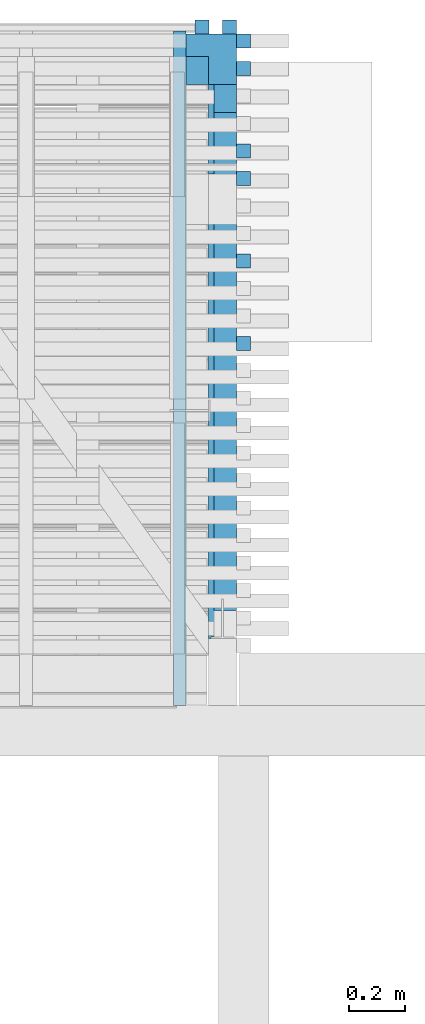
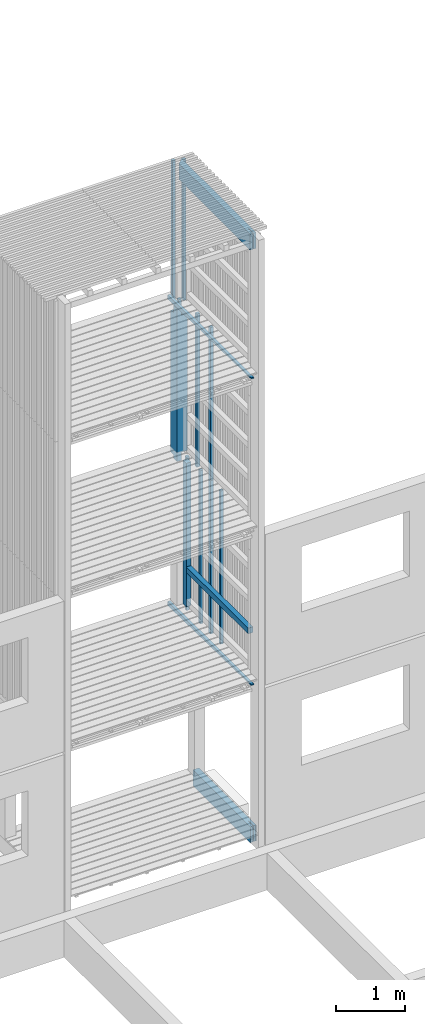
# One storey, part 31 of 182: 16 beams.
"""IFC2X3 building model written with IfcOpenShell, lengths in metres."""

from ifc_helpers import new_model, si_unit, frame, origin, place, context, project, spatial, faceted_brep, element, save


model = new_model("IFC2X3")

# Units and contexts
model_context = context("Model", 3, precision=1e-06, world=origin())
ifc_project = project(units=[si_unit("LENGTHUNIT", "METRE"), si_unit("PLANEANGLEUNIT", "RADIAN")], contexts=[model_context])

# Site, building, storey
site = spatial("IfcSite", under=ifc_project, CompositionType="ELEMENT")
building = spatial("IfcBuilding", under=site, CompositionType="ELEMENT")
storey = spatial("IfcBuildingStorey", under=building, Name="vs", CompositionType="ELEMENT", Elevation=-0.85)

# Beams
placement = place(None, origin())
beam_1_placement = place(placement, frame((6.66919731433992, 12.746895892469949, 2.575000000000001), z_axis=(-1.0, 0.0, 0.0), x_axis=(0.0, 0.0, 1.0)))
element("IfcBeam", 1, at=beam_1_placement, inside=storey, Name="Bardage", context=model_context, shape_type="Brep", body=[
    faceted_brep([(0.0, -0.025000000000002, 0.024999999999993), (0.0, 0.024999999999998, 0.024999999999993), (0.0, 0.024999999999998, -0.025000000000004), (0.0, -0.025000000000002, -0.025000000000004), (2.699961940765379, 0.025000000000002, -0.025000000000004), (2.699961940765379, 0.025000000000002, 0.024999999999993), (2.699961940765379, -0.025000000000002, 0.024999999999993), (2.699961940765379, -0.025000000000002, -0.025000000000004), (0.0, -0.025000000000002, -0.025000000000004), (0.0, 0.024999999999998, -0.025000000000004), (2.699961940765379, 0.025000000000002, -0.025000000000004), (2.699961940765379, -0.025000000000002, -0.025000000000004), (2.699961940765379, 0.025000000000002, -0.025000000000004), (0.0, 0.024999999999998, -0.025000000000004), (0.0, 0.024999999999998, 0.024999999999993), (2.699961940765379, 0.025000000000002, 0.024999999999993), (2.699961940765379, 0.025000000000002, 0.024999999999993), (0.0, 0.024999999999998, 0.024999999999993), (0.0, -0.025000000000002, 0.024999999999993), (2.699961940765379, -0.025000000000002, 0.024999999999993), (2.699961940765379, -0.025000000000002, 0.024999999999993), (0.0, -0.025000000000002, 0.024999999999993), (0.0, -0.025000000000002, -0.025000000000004), (2.699961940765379, -0.025000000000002, -0.025000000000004)], [[[0, 1, 2, 3]], [[4, 5, 6, 7]], [[8, 9, 10, 11]], [[12, 13, 14, 15]], [[16, 17, 18, 19]], [[20, 21, 22, 23]]]),
])
beam_2_placement = place(placement, frame((6.554197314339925, 12.780077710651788, 5.279999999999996), z_axis=(0.0, -1.0, 0.0), x_axis=(0.0, 0.0, 1.0)))
element("IfcBeam", 2, at=beam_2_placement, inside=storey, Name="Poteau", context=model_context, shape_type="Brep", body=[
    faceted_brep([(0.139999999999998, -0.09, 0.089999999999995), (0.139999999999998, 0.009999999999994, 0.089999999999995), (0.139999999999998, 0.009999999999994, -0.090000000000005), (0.139999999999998, -0.09, -0.090000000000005), (0.059999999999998, 0.090000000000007, -0.010000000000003), (0.059999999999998, 0.009999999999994, -0.009999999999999), (-1e-15, 0.009999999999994, -0.009999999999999), (-1e-15, 0.090000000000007, -0.009999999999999), (-1e-15, 0.090000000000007, 0.089999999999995), (-1e-15, 0.090000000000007, -0.009999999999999), (-1e-15, 0.009999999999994, -0.009999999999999), (-1e-15, 0.009999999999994, 0.089999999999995), (0.139999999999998, 0.009999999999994, -0.090000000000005), (0.139999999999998, 0.009999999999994, 0.089999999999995), (-1e-15, 0.009999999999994, 0.089999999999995), (-1e-15, 0.009999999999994, -0.009999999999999), (0.059999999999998, 0.009999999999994, -0.009999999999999), (0.059999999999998, 0.009999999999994, -0.090000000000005), (0.059999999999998, 0.009999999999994, -0.090000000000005), (0.059999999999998, 0.009999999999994, -0.009999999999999), (0.059999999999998, 0.090000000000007, -0.010000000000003), (0.059999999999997, 0.090000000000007, -0.090000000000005), (0.139999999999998, -0.09, -0.090000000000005), (0.139999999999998, 0.009999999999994, -0.090000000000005), (0.059999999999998, 0.009999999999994, -0.090000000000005), (0.059999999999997, 0.090000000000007, -0.090000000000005), (2.559999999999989, 0.090000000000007, -0.090000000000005), (2.559999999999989, -0.09, -0.090000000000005), (2.559999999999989, -0.09, 0.089999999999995), (0.139999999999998, -0.09, 0.089999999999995), (0.139999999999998, -0.09, -0.090000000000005), (2.559999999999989, -0.09, -0.090000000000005), (2.559999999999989, 0.090000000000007, -0.010000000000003), (2.559999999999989, 0.090000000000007, -0.090000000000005), (0.059999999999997, 0.090000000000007, -0.090000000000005), (0.059999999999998, 0.090000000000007, -0.010000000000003), (-1e-15, 0.090000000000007, -0.009999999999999), (-1e-15, 0.090000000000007, 0.089999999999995), (2.69999999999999, 0.090000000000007, 0.089999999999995), (2.69999999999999, 0.090000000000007, -0.009999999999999), (2.69999999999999, 0.009999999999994, 0.089999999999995), (2.69999999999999, 0.090000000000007, 0.089999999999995), (-1e-15, 0.090000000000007, 0.089999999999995), (-1e-15, 0.009999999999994, 0.089999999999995), (0.139999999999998, 0.009999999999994, 0.089999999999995), (0.139999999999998, -0.09, 0.089999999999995), (2.559999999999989, -0.09, 0.089999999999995), (2.559999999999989, 0.009999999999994, 0.089999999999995), (2.559999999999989, 0.090000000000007, -0.010000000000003), (2.69999999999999, 0.090000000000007, -0.009999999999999), (2.69999999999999, 0.009999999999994, -0.010000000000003), (2.559999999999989, 0.009999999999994, -0.010000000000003), (2.559999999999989, 0.009999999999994, 0.089999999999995), (2.559999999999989, -0.09, 0.089999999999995), (2.559999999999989, -0.09, -0.090000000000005), (2.559999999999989, 0.090000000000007, -0.090000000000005), (2.559999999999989, 0.090000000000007, -0.010000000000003), (2.559999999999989, 0.009999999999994, -0.010000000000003), (2.69999999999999, 0.009999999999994, 0.089999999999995), (2.559999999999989, 0.009999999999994, 0.089999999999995), (2.559999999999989, 0.009999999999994, -0.010000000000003), (2.69999999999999, 0.009999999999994, -0.010000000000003), (2.69999999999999, 0.090000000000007, 0.089999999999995), (2.69999999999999, 0.009999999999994, 0.089999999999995), (2.69999999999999, 0.009999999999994, -0.010000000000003), (2.69999999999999, 0.090000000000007, -0.009999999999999)], [[[0, 1, 2, 3]], [[4, 5, 6, 7]], [[8, 9, 10, 11]], [[12, 13, 14, 15, 16, 17]], [[18, 19, 20, 21]], [[22, 23, 24, 25, 26, 27]], [[28, 29, 30, 31]], [[32, 33, 34, 35, 36, 37, 38, 39]], [[40, 41, 42, 43, 44, 45, 46, 47]], [[48, 49, 50, 51]], [[52, 53, 54, 55, 56, 57]], [[58, 59, 60, 61]], [[62, 63, 64, 65]]]),
])
beam_3_placement = place(placement, frame((6.604197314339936, 12.640077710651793, 2.746999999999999), z_axis=(0.0, -1.0, 0.0), x_axis=(0.0, 0.0, 1.0)))
element("IfcBeam", 3, at=beam_3_placement, inside=storey, Name="Support bardage", context=model_context, shape_type="Brep", body=[
    faceted_brep([(2.527961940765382, -0.039999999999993, -0.05), (2.527961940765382, 0.04000000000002, -0.05), (2.527961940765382, 0.04000000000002, 0.050000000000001), (2.527961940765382, -0.039999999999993, 0.050000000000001), (0.0, -0.039999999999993, 0.050000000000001), (0.0, -0.039999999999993, -0.05), (2.527961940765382, -0.039999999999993, -0.05), (2.527961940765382, -0.039999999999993, 0.050000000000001), (0.0, -0.039999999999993, -0.05), (0.0, -0.039999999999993, 0.050000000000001), (0.0, 0.04000000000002, 0.050000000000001), (0.0, 0.04000000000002, -0.05), (2.527961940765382, -0.039999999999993, -0.05), (0.0, -0.039999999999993, -0.05), (0.0, 0.04000000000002, -0.05), (2.527961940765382, 0.04000000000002, -0.05), (2.527961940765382, 0.04000000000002, -0.05), (0.0, 0.04000000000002, -0.05), (0.0, 0.04000000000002, 0.050000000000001), (2.527961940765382, 0.04000000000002, 0.050000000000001), (2.527961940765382, 0.04000000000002, 0.050000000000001), (0.0, 0.04000000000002, 0.050000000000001), (0.0, -0.039999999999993, 0.050000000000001), (2.527961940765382, -0.039999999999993, 0.050000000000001)], [[[0, 1, 2, 3]], [[4, 5, 6, 7]], [[8, 9, 10, 11]], [[12, 13, 14, 15]], [[16, 17, 18, 19]], [[20, 21, 22, 23]]]),
])
beam_4_placement = place(placement, frame((6.619197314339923, 12.895077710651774, 5.274999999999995), z_axis=(0.0, -1.0, 0.0), x_axis=(0.0, 0.0, 1.0)))
element("IfcBeam", 4, at=beam_4_placement, inside=storey, Name="Bardage", context=model_context, shape_type="Brep", body=[
    faceted_brep([(2.699999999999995, 0.025000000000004, 0.025000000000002), (2.699999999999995, -0.025000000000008, 0.025000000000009), (2.699999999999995, -0.025000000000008, -0.024999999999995), (2.699999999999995, 0.02499999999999, -0.025000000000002), (1e-15, 0.025000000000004, 0.025000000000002), (2.699999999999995, 0.025000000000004, 0.025000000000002), (2.699999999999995, 0.02499999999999, -0.025000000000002), (1e-15, 0.02499999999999, -0.025000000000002), (1e-15, -0.025000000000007, 0.025000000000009), (1e-15, 0.025000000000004, 0.025000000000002), (1e-15, 0.02499999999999, -0.025000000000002), (1e-15, -0.025000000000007, -0.024999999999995), (1e-15, 0.025000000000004, 0.025000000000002), (1e-15, -0.025000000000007, 0.025000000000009), (2.699999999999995, -0.025000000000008, 0.025000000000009), (2.699999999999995, 0.025000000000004, 0.025000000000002), (1e-15, -0.025000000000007, 0.025000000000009), (1e-15, -0.025000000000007, -0.024999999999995), (2.699999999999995, -0.025000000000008, -0.024999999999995), (2.699999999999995, -0.025000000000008, 0.025000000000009), (1e-15, -0.025000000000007, -0.024999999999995), (1e-15, 0.02499999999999, -0.025000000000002), (2.699999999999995, 0.02499999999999, -0.025000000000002), (2.699999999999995, -0.025000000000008, -0.024999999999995)], [[[0, 1, 2, 3]], [[4, 5, 6, 7]], [[8, 9, 10, 11]], [[12, 13, 14, 15]], [[16, 17, 18, 19]], [[20, 21, 22, 23]]]),
])
beam_5_placement = place(placement, frame((6.66919731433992, 12.84507771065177, 7.974999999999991), z_axis=(-1.0, 0.0, 0.0), x_axis=(0.0, 0.0, 1.0)))
element("IfcBeam", 5, at=beam_5_placement, inside=storey, Name="Bardage", context=model_context, shape_type="Brep", body=[
    faceted_brep([(2.479999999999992, -0.025000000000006, 0.024999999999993), (2.479999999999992, -0.025000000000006, -0.025000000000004), (2.479999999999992, 0.024999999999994, -0.025000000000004), (2.479999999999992, 0.024999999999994, 0.024999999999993), (0.0, 0.024999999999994, 0.024999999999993), (0.0, -0.025000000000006, 0.024999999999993), (2.479999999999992, -0.025000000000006, 0.024999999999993), (2.479999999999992, 0.024999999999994, 0.024999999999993), (0.0, -0.025000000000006, 0.024999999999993), (0.0, 0.024999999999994, 0.024999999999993), (0.0, 0.024999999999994, -0.025000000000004), (0.0, -0.025000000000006, -0.025000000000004), (0.0, 0.024999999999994, -0.025000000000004), (0.0, 0.024999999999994, 0.024999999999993), (2.479999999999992, 0.024999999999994, 0.024999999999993), (2.479999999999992, 0.024999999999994, -0.025000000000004), (0.0, -0.025000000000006, -0.025000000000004), (0.0, 0.024999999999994, -0.025000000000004), (2.479999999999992, 0.024999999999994, -0.025000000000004), (2.479999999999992, -0.025000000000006, -0.025000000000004), (2.479999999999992, -0.025000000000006, 0.024999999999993), (0.0, -0.025000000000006, 0.024999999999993), (0.0, -0.025000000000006, -0.025000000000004), (2.479999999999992, -0.025000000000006, -0.025000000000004)], [[[0, 1, 2, 3]], [[4, 5, 6, 7]], [[8, 9, 10, 11]], [[12, 13, 14, 15]], [[16, 17, 18, 19]], [[20, 21, 22, 23]]]),
])
beam_6_placement = place(placement, frame((6.521015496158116, 12.895077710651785, 7.974999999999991), z_axis=(0.0, -1.0, 0.0), x_axis=(0.0, 0.0, 1.0)))
element("IfcBeam", 6, at=beam_6_placement, inside=storey, Name="Bardage", context=model_context, shape_type="Brep", body=[
    faceted_brep([(0.0, -0.024999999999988, 0.025000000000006), (0.0, 0.025000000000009, 0.024999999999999), (0.0, 0.024999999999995, -0.025000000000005), (0.0, -0.025000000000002, -0.024999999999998), (2.479999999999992, 0.024999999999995, -0.025000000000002), (2.479999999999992, 0.025000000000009, 0.024999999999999), (2.479999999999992, -0.024999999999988, 0.025000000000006), (2.479999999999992, -0.025000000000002, -0.024999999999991), (0.0, 0.025000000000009, 0.024999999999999), (0.0, -0.024999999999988, 0.025000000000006), (2.479999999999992, -0.024999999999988, 0.025000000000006), (2.479999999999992, 0.025000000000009, 0.024999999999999), (0.0, 0.024999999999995, -0.025000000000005), (0.0, 0.025000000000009, 0.024999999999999), (2.479999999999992, 0.025000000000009, 0.024999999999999), (2.479999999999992, 0.024999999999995, -0.025000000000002), (0.0, -0.025000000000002, -0.024999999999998), (0.0, 0.024999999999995, -0.025000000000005), (2.479999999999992, 0.024999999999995, -0.025000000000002), (2.479999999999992, -0.025000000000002, -0.024999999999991), (2.479999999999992, -0.024999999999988, 0.025000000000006), (0.0, -0.024999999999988, 0.025000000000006), (0.0, -0.025000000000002, -0.024999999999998), (2.479999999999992, -0.025000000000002, -0.024999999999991)], [[[0, 1, 2, 3]], [[4, 5, 6, 7]], [[8, 9, 10, 11]], [[12, 13, 14, 15]], [[16, 17, 18, 19]], [[20, 21, 22, 23]]]),
])
beam_7_placement = place(placement, frame((6.594197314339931, 10.715077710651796, 10.314999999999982), z_axis=(0.0, 0.0, 1.0), x_axis=(0.0, 1.0, 0.0)))
element("IfcBeam", 7, at=beam_7_placement, inside=storey, Name="Sommier", context=model_context, shape_type="Brep", body=[
    faceted_brep([(2.054999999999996, 0.049999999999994, 0.140000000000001), (2.054999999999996, 0.049999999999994, -0.140000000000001), (0.0, 0.049999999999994, -0.140000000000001), (0.0, 0.049999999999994, 0.140000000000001), (2.054999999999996, 0.049999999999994, -0.140000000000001), (2.054999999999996, 0.049999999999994, 0.140000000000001), (2.154999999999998, -0.05, 0.140000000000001), (2.154999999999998, -0.05, -0.140000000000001), (-4e-15, -0.003999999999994, 0.140000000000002), (0.0, -0.05, 0.140000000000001), (2.154999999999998, -0.05, 0.140000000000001), (2.054999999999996, 0.049999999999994, 0.140000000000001), (0.0, 0.049999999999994, 0.140000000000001), (-4e-15, 0.004000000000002, 0.140000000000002), (0.136999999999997, 0.004000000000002, 0.140000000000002), (0.136999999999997, -0.003999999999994, 0.140000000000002), (2.154999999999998, -0.05, -0.140000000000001), (2.154999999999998, -0.05, 0.140000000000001), (0.0, -0.05, 0.140000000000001), (0.0, -0.05, -0.140000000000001), (0.0, 0.004000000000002, -0.139999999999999), (-4e-15, 0.004000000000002, 0.140000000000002), (0.0, 0.049999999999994, 0.140000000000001), (0.0, 0.049999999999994, -0.140000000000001), (0.0, -0.05, 0.140000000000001), (-4e-15, -0.003999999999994, 0.140000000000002), (0.0, -0.003999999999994, -0.139999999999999), (0.0, -0.05, -0.140000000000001), (0.0, 0.049999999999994, -0.140000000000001), (2.054999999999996, 0.049999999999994, -0.140000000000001), (2.154999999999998, -0.05, -0.140000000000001), (0.0, -0.05, -0.140000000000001), (0.0, -0.003999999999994, -0.139999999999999), (0.136999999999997, -0.003999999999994, -0.139999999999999), (0.136999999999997, 0.004000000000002, -0.139999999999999), (0.0, 0.004000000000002, -0.139999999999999), (0.136999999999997, 0.004000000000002, -0.139999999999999), (0.136999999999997, -0.003999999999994, -0.139999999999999), (0.136999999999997, -0.003999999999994, 0.140000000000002), (0.136999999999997, 0.004000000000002, 0.140000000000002), (-4e-15, -0.003999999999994, 0.140000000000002), (0.136999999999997, -0.003999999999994, 0.140000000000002), (0.136999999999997, -0.003999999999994, -0.139999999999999), (0.0, -0.003999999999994, -0.139999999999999), (0.136999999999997, 0.004000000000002, 0.140000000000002), (-4e-15, 0.004000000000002, 0.140000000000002), (0.0, 0.004000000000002, -0.139999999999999), (0.136999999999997, 0.004000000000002, -0.139999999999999)], [[[0, 1, 2, 3]], [[4, 5, 6, 7]], [[8, 9, 10, 11, 12, 13, 14, 15]], [[16, 17, 18, 19]], [[20, 21, 22, 23]], [[24, 25, 26, 27]], [[28, 29, 30, 31, 32, 33, 34, 35]], [[36, 37, 38, 39]], [[40, 41, 42, 43]], [[44, 45, 46, 47]]]),
])
beam_8_placement = place(placement, frame((6.66919731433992, 12.35416861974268, 2.575000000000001), z_axis=(-1.0, 0.0, 0.0), x_axis=(0.0, 0.0, 1.0)))
element("IfcBeam", 8, at=beam_8_placement, inside=storey, Name="Bardage", context=model_context, shape_type="Brep", body=[
    faceted_brep([(0.0, -0.024999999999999, 0.024999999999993), (0.0, 0.024999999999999, 0.024999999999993), (0.0, 0.024999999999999, -0.025000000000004), (0.0, -0.024999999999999, -0.025000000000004), (2.699961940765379, 0.024999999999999, -0.025000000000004), (2.699961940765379, 0.024999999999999, 0.024999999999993), (2.699961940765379, -0.024999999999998, 0.024999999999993), (2.699961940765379, -0.024999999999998, -0.025000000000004), (0.0, -0.024999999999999, -0.025000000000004), (0.0, 0.024999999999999, -0.025000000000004), (2.699961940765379, 0.024999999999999, -0.025000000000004), (2.699961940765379, -0.024999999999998, -0.025000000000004), (2.699961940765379, 0.024999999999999, -0.025000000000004), (0.0, 0.024999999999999, -0.025000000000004), (0.0, 0.024999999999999, 0.024999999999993), (2.699961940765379, 0.024999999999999, 0.024999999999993), (2.699961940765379, 0.024999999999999, 0.024999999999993), (0.0, 0.024999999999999, 0.024999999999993), (0.0, -0.024999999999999, 0.024999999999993), (2.699961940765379, -0.024999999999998, 0.024999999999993), (2.699961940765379, -0.024999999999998, 0.024999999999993), (0.0, -0.024999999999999, 0.024999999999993), (0.0, -0.024999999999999, -0.025000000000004), (2.699961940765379, -0.024999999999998, -0.025000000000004)], [[[0, 1, 2, 3]], [[4, 5, 6, 7]], [[8, 9, 10, 11]], [[12, 13, 14, 15]], [[16, 17, 18, 19]], [[20, 21, 22, 23]]]),
])
beam_9_placement = place(placement, frame((6.66919731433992, 12.059623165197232, 5.274999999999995), z_axis=(-1.0, 0.0, 0.0), x_axis=(0.0, 0.0, 1.0)))
element("IfcBeam", 9, at=beam_9_placement, inside=storey, Name="Bardage", context=model_context, shape_type="Brep", body=[
    faceted_brep([(1e-15, -0.025000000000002, 0.024999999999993), (1e-15, 0.024999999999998, 0.024999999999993), (1e-15, 0.024999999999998, -0.025000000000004), (1e-15, -0.025000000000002, -0.025000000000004), (2.699999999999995, -0.025000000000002, -0.025000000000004), (2.699999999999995, 0.024999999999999, -0.025000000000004), (2.699999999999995, 0.024999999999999, 0.024999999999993), (2.699999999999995, -0.025000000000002, 0.024999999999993), (1e-15, -0.025000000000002, 0.024999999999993), (1e-15, -0.025000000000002, -0.025000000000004), (2.699999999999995, -0.025000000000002, -0.025000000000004), (2.699999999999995, -0.025000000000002, 0.024999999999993), (2.699999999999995, -0.025000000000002, -0.025000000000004), (1e-15, -0.025000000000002, -0.025000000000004), (1e-15, 0.024999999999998, -0.025000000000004), (2.699999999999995, 0.024999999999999, -0.025000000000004), (2.699999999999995, 0.024999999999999, -0.025000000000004), (1e-15, 0.024999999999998, -0.025000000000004), (1e-15, 0.024999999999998, 0.024999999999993), (2.699999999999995, 0.024999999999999, 0.024999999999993), (2.699999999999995, 0.024999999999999, 0.024999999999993), (1e-15, 0.024999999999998, 0.024999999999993), (1e-15, -0.025000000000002, 0.024999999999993), (2.699999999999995, -0.025000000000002, 0.024999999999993)], [[[0, 1, 2, 3]], [[4, 5, 6, 7]], [[8, 9, 10, 11]], [[12, 13, 14, 15]], [[16, 17, 18, 19]], [[20, 21, 22, 23]]]),
])
beam_10_placement = place(placement, frame((6.66919731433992, 11.765077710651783, 2.575000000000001), z_axis=(-1.0, 0.0, 0.0), x_axis=(0.0, 0.0, 1.0)))
element("IfcBeam", 10, at=beam_10_placement, inside=storey, Name="Bardage", context=model_context, shape_type="Brep", body=[
    faceted_brep([(0.0, -0.025000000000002, 0.024999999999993), (0.0, 0.024999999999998, 0.024999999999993), (0.0, 0.024999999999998, -0.025000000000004), (0.0, -0.025000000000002, -0.025000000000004), (2.699961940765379, 0.024999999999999, -0.025000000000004), (2.699961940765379, 0.024999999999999, 0.024999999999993), (2.699961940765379, -0.025000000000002, 0.024999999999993), (2.699961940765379, -0.025000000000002, -0.025000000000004), (0.0, -0.025000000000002, -0.025000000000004), (0.0, 0.024999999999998, -0.025000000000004), (2.699961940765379, 0.024999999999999, -0.025000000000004), (2.699961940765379, -0.025000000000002, -0.025000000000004), (2.699961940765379, 0.024999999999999, -0.025000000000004), (0.0, 0.024999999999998, -0.025000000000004), (0.0, 0.024999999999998, 0.024999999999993), (2.699961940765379, 0.024999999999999, 0.024999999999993), (2.699961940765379, 0.024999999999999, 0.024999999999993), (0.0, 0.024999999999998, 0.024999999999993), (0.0, -0.025000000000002, 0.024999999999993), (2.699961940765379, -0.025000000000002, 0.024999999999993), (2.699961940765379, -0.025000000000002, 0.024999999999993), (0.0, -0.025000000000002, 0.024999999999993), (0.0, -0.025000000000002, -0.025000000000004), (2.699961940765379, -0.025000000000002, -0.025000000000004)], [[[0, 1, 2, 3]], [[4, 5, 6, 7]], [[8, 9, 10, 11]], [[12, 13, 14, 15]], [[16, 17, 18, 19]], [[20, 21, 22, 23]]]),
])
beam_11_placement = place(placement, frame((6.59419731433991, 10.710077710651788, -0.119999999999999), z_axis=(0.0, 0.0, 1.0), x_axis=(0.0, 1.0, 0.0)))
element("IfcBeam", 11, at=beam_11_placement, inside=storey, Name="Sommier", context=model_context, shape_type="Brep", body=[
    faceted_brep([(1.660000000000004, 0.049999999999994, 0.14), (1.660000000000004, -0.050000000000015, 0.14), (1.660000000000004, -0.050000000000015, -0.14), (1.660000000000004, 0.049999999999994, -0.14), (0.142000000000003, -0.004000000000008, -0.14), (0.142000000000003, 0.003999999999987, -0.14), (0.005000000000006, 0.003999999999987, -0.14), (0.005000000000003, 0.040999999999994, -0.14), (4e-15, 0.040999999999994, -0.14), (0.0, 0.049999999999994, -0.14), (1.660000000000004, 0.049999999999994, -0.14), (1.660000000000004, -0.050000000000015, -0.14), (0.0, -0.050000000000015, -0.14), (4e-15, -0.041000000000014, -0.14), (0.005000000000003, -0.041000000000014, -0.14), (0.005000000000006, -0.004000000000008, -0.14), (1.660000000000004, 0.049999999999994, 0.14), (1.660000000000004, 0.049999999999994, -0.14), (0.0, 0.049999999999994, -0.14), (0.0, 0.049999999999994, 0.14), (0.852999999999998, 0.049999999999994, -0.123600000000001), (0.852999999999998, 0.049999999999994, 0.051399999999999), (0.776999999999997, 0.049999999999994, 0.051399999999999), (0.776999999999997, 0.049999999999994, -0.123600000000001), (0.0, -0.050000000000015, 0.14), (4e-15, -0.041000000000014, 0.14), (4e-15, -0.041000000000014, -0.14), (0.0, -0.050000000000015, -0.14), (0.852999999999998, 0.044999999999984, -0.123600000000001), (0.776999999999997, 0.044999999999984, -0.123600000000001), (0.776999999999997, 0.044999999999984, 0.051399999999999), (0.852999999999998, 0.044999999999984, 0.051399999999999), (0.852999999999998, 0.044999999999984, 0.051399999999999), (0.776999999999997, 0.044999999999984, 0.051399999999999), (0.776999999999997, 0.049999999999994, 0.051399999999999), (0.852999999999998, 0.049999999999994, 0.051399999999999), (0.776999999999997, 0.044999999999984, -0.123600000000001), (0.852999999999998, 0.044999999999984, -0.123600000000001), (0.852999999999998, 0.049999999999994, -0.123600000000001), (0.776999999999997, 0.049999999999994, -0.123600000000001), (0.852999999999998, 0.049999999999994, 0.051399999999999), (0.852999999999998, 0.049999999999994, -0.123600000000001), (0.852999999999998, 0.044999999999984, -0.123600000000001), (0.852999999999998, 0.044999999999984, 0.051399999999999), (0.776999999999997, 0.044999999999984, 0.051399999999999), (0.776999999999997, 0.044999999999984, -0.123600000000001), (0.776999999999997, 0.049999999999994, -0.123600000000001), (0.776999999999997, 0.049999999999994, 0.051399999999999), (0.0, -0.050000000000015, -0.14), (1.660000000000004, -0.050000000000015, -0.14), (1.660000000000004, -0.050000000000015, 0.14), (0.0, -0.050000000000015, 0.14), (0.0, 0.049999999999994, 0.14), (0.0, 0.049999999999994, -0.14), (4e-15, 0.040999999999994, -0.14), (4e-15, 0.040999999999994, 0.14), (0.0, -0.050000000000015, 0.14), (1.660000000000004, -0.050000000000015, 0.14), (1.660000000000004, 0.049999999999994, 0.14), (0.0, 0.049999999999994, 0.14), (4e-15, 0.040999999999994, 0.14), (0.005000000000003, 0.040999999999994, 0.14), (0.005000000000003, 0.003999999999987, 0.14), (0.142000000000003, 0.003999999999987, 0.140000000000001), (0.142000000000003, -0.004000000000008, 0.140000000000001), (0.005000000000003, -0.004000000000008, 0.14), (0.005000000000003, -0.041000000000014, 0.14), (4e-15, -0.041000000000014, 0.14), (0.142000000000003, 0.003999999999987, -0.14), (0.142000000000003, -0.004000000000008, -0.14), (0.142000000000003, -0.004000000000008, 0.140000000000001), (0.142000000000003, 0.003999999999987, 0.140000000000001), (0.005000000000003, -0.004000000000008, 0.14), (0.142000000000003, -0.004000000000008, 0.140000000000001), (0.142000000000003, -0.004000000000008, -0.14), (0.005000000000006, -0.004000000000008, -0.14), (0.005000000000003, -0.004000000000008, 0.14), (0.005000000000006, -0.004000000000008, -0.14), (0.005000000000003, -0.041000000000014, -0.14), (0.005000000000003, -0.041000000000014, 0.14), (0.005000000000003, -0.041000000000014, 0.14), (0.005000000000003, -0.041000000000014, -0.14), (4e-15, -0.041000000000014, -0.14), (4e-15, -0.041000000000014, 0.14), (4e-15, 0.040999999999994, 0.14), (4e-15, 0.040999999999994, -0.14), (0.005000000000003, 0.040999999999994, -0.14), (0.005000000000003, 0.040999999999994, 0.14), (0.005000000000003, 0.040999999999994, 0.14), (0.005000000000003, 0.040999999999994, -0.14), (0.005000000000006, 0.003999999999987, -0.14), (0.005000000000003, 0.003999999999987, 0.14), (0.142000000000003, 0.003999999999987, 0.140000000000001), (0.005000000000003, 0.003999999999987, 0.14), (0.005000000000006, 0.003999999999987, -0.14), (0.142000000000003, 0.003999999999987, -0.14)], [[[0, 1, 2, 3]], [[4, 5, 6, 7, 8, 9, 10, 11, 12, 13, 14, 15]], [[16, 17, 18, 19], [20, 21, 22, 23]], [[24, 25, 26, 27]], [[28, 29, 30, 31]], [[32, 33, 34, 35]], [[36, 37, 38, 39]], [[40, 41, 42, 43]], [[44, 45, 46, 47]], [[48, 49, 50, 51]], [[52, 53, 54, 55]], [[56, 57, 58, 59, 60, 61, 62, 63, 64, 65, 66, 67]], [[68, 69, 70, 71]], [[72, 73, 74, 75]], [[76, 77, 78, 79]], [[80, 81, 82, 83]], [[84, 85, 86, 87]], [[88, 89, 90, 91]], [[92, 93, 94, 95]]]),
])
beam_12_placement = place(placement, frame((6.66919731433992, 12.452350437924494, 5.274999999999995), z_axis=(-1.0, 0.0, 0.0), x_axis=(0.0, 0.0, 1.0)))
element("IfcBeam", 12, at=beam_12_placement, inside=storey, Name="Bardage", context=model_context, shape_type="Brep", body=[
    faceted_brep([(1e-15, -0.024999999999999, 0.024999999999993), (1e-15, 0.025000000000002, 0.024999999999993), (1e-15, 0.025000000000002, -0.025000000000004), (1e-15, -0.024999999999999, -0.025000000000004), (2.699999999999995, -0.024999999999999, -0.025000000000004), (2.699999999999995, 0.025000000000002, -0.025000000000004), (2.699999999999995, 0.025000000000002, 0.024999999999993), (2.699999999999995, -0.024999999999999, 0.024999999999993), (1e-15, -0.024999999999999, 0.024999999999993), (1e-15, -0.024999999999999, -0.025000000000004), (2.699999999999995, -0.024999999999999, -0.025000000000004), (2.699999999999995, -0.024999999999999, 0.024999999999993), (2.699999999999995, -0.024999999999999, -0.025000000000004), (1e-15, -0.024999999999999, -0.025000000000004), (1e-15, 0.025000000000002, -0.025000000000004), (2.699999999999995, 0.025000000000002, -0.025000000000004), (2.699999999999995, 0.025000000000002, -0.025000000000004), (1e-15, 0.025000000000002, -0.025000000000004), (1e-15, 0.025000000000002, 0.024999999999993), (2.699999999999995, 0.025000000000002, 0.024999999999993), (2.699999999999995, 0.025000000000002, 0.024999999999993), (1e-15, 0.025000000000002, 0.024999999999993), (1e-15, -0.024999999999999, 0.024999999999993), (2.699999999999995, -0.024999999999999, 0.024999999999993)], [[[0, 1, 2, 3]], [[4, 5, 6, 7]], [[8, 9, 10, 11]], [[12, 13, 14, 15]], [[16, 17, 18, 19]], [[20, 21, 22, 23]]]),
])
beam_13_placement = place(placement, frame((6.441697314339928, 10.470077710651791, 2.684400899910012), z_axis=(0.0, 0.0, 1.0), x_axis=(0.0, 1.0, 0.0)))
element("IfcBeam", 13, at=beam_13_placement, inside=storey, Name="Calage", context=model_context, shape_type="Brep", body=[
    faceted_brep([(2.410000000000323, -0.022499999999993, -0.035599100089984), (0.0, -0.022499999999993, 0.012600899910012), (0.0, 0.022500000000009, 0.012600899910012), (2.410000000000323, 0.022500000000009, -0.035599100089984), (0.0, 0.022500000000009, 0.035599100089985), (0.0, 0.022500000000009, 0.012600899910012), (0.0, -0.022499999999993, 0.012600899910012), (0.0, -0.022499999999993, 0.035599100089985), (2.410000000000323, 0.022500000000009, -0.035599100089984), (0.0, 0.022500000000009, 0.012600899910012), (0.0, 0.022500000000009, 0.035599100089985), (2.410000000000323, 0.022500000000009, 0.035599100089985), (2.410000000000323, -0.022499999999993, 0.035599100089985), (0.0, -0.022499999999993, 0.035599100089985), (0.0, -0.022499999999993, 0.012600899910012), (2.410000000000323, -0.022499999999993, -0.035599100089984), (2.410000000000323, 0.022500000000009, 0.035599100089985), (0.0, 0.022500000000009, 0.035599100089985), (0.0, -0.022499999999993, 0.035599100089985), (2.410000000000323, -0.022499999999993, 0.035599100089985), (2.410000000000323, 0.022500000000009, -0.035599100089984), (2.410000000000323, 0.022500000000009, 0.035599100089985), (2.410000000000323, -0.022499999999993, 0.035599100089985), (2.410000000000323, -0.022499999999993, -0.035599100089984)], [[[0, 1, 2, 3]], [[4, 5, 6, 7]], [[8, 9, 10, 11]], [[12, 13, 14, 15]], [[16, 17, 18, 19]], [[20, 21, 22, 23]]]),
])
beam_14_placement = place(placement, frame((6.441697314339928, 10.470077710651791, 8.084400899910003), z_axis=(0.0, 0.0, 1.0), x_axis=(0.0, 1.0, 0.0)))
element("IfcBeam", 14, at=beam_14_placement, inside=storey, Name="Calage", context=model_context, shape_type="Brep", body=[
    faceted_brep([(2.410000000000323, -0.022499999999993, -0.035599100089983), (0.0, -0.022499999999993, 0.012600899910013), (0.0, 0.022500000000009, 0.012600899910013), (2.410000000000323, 0.022500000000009, -0.035599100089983), (0.0, 0.022500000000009, 0.035599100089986), (0.0, 0.022500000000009, 0.012600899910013), (0.0, -0.022499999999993, 0.012600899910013), (0.0, -0.022499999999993, 0.035599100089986), (2.410000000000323, 0.022500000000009, -0.035599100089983), (0.0, 0.022500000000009, 0.012600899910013), (0.0, 0.022500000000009, 0.035599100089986), (2.410000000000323, 0.022500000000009, 0.035599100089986), (2.410000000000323, -0.022499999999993, 0.035599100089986), (0.0, -0.022499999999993, 0.035599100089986), (0.0, -0.022499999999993, 0.012600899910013), (2.410000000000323, -0.022499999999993, -0.035599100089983), (2.410000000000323, 0.022500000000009, 0.035599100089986), (0.0, 0.022500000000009, 0.035599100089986), (0.0, -0.022499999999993, 0.035599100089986), (2.410000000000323, -0.022499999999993, 0.035599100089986), (2.410000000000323, 0.022500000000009, -0.035599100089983), (2.410000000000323, 0.022500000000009, 0.035599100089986), (2.410000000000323, -0.022499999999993, 0.035599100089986), (2.410000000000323, -0.022499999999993, -0.035599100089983)], [[[0, 1, 2, 3]], [[4, 5, 6, 7]], [[8, 9, 10, 11]], [[12, 13, 14, 15]], [[16, 17, 18, 19]], [[20, 21, 22, 23]]]),
])
beam_15_placement = place(placement, frame((6.66919731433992, 12.059623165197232, 2.575000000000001), z_axis=(-1.0, 0.0, 0.0), x_axis=(0.0, 0.0, 1.0)))
element("IfcBeam", 15, at=beam_15_placement, inside=storey, Name="Bardage", context=model_context, shape_type="Brep", body=[
    faceted_brep([(0.0, -0.025000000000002, 0.024999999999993), (0.0, 0.024999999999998, 0.024999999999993), (0.0, 0.024999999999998, -0.025000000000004), (0.0, -0.025000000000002, -0.025000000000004), (2.699961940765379, 0.024999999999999, -0.025000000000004), (2.699961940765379, 0.024999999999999, 0.024999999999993), (2.699961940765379, -0.025000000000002, 0.024999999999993), (2.699961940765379, -0.025000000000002, -0.025000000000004), (0.0, -0.025000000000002, -0.025000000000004), (0.0, 0.024999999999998, -0.025000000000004), (2.699961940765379, 0.024999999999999, -0.025000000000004), (2.699961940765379, -0.025000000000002, -0.025000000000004), (2.699961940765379, 0.024999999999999, -0.025000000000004), (0.0, 0.024999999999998, -0.025000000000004), (0.0, 0.024999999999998, 0.024999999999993), (2.699961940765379, 0.024999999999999, 0.024999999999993), (2.699961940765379, 0.024999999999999, 0.024999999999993), (0.0, 0.024999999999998, 0.024999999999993), (0.0, -0.025000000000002, 0.024999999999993), (2.699961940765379, -0.025000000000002, 0.024999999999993), (2.699961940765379, -0.025000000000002, 0.024999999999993), (0.0, -0.025000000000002, 0.024999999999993), (0.0, -0.025000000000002, -0.025000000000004), (2.699961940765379, -0.025000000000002, -0.025000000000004)], [[[0, 1, 2, 3]], [[4, 5, 6, 7]], [[8, 9, 10, 11]], [[12, 13, 14, 15]], [[16, 17, 18, 19]], [[20, 21, 22, 23]]]),
])
beam_16_placement = place(placement, frame((6.604197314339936, 10.810077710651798, 3.401250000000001), z_axis=(0.0, 0.0, 1.0), x_axis=(0.0, 1.0, 0.0)))
element("IfcBeam", 16, at=beam_16_placement, inside=storey, Name="Support bardage", context=model_context, shape_type="Brep", body=[
    faceted_brep([(1.779999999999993, -0.039999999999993, 0.05), (1.779999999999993, -0.039999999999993, -0.050000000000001), (1.779999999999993, 0.04000000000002, -0.050000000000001), (1.779999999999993, 0.04000000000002, 0.05), (-4e-15, -0.039999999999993, -0.050000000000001), (1.779999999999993, -0.039999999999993, -0.050000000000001), (1.779999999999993, -0.039999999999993, 0.05), (-4e-15, -0.039999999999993, 0.05), (-4e-15, 0.04000000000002, -0.050000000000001), (1.779999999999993, 0.04000000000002, -0.050000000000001), (1.779999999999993, -0.039999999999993, -0.050000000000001), (-4e-15, -0.039999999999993, -0.050000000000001), (-4e-15, 0.04000000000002, 0.05), (1.779999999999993, 0.04000000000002, 0.05), (1.779999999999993, 0.04000000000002, -0.050000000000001), (-4e-15, 0.04000000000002, -0.050000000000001), (-4e-15, -0.039999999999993, 0.05), (1.779999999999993, -0.039999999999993, 0.05), (1.779999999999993, 0.04000000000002, 0.05), (-4e-15, 0.04000000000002, 0.05), (-4e-15, -0.039999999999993, -0.050000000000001), (-4e-15, -0.039999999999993, 0.05), (-4e-15, 0.04000000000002, 0.05), (-4e-15, 0.04000000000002, -0.050000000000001)], [[[0, 1, 2, 3]], [[4, 5, 6, 7]], [[8, 9, 10, 11]], [[12, 13, 14, 15]], [[16, 17, 18, 19]], [[20, 21, 22, 23]]]),
])

save(model, "model.ifc")
